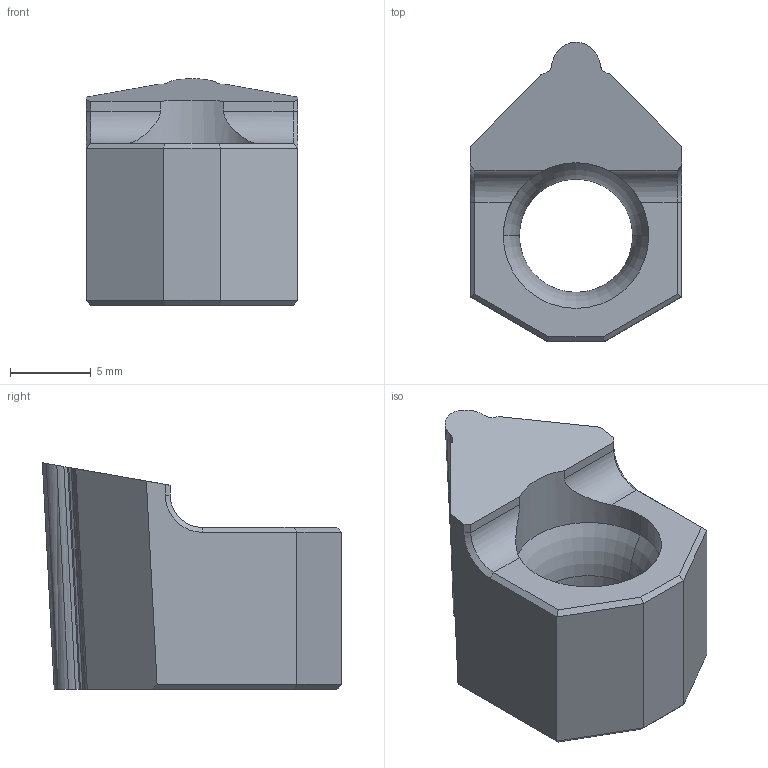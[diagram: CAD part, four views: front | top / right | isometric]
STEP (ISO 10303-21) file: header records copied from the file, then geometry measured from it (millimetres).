
FILE_DESCRIPTION (( 'STEP AP214' ), '1' );
FILE_NAME ('IN-PG5-33_60.STEP', '2023-07-22T10:02:08', ( 'Paolo' ), ( '' ), 'SwSTEP 2.0', 'SolidWorks 2020', '' );
FILE_SCHEMA (( 'AUTOMOTIVE_DESIGN' ));
Length unit declared in the file: millimetre
Products named in the file (1): IN-PG5-33_60
Bounding box: 13.1 x 18.5 x 14 mm (x, y, z)
Volume: 1571 mm3; surface area: 1107.1 mm2
Topology: 1 solids, 1 shells, 52 faces, 135 edges, 84 vertices
Faces by surface type: plane 24, bspline 16, cylinder 6, cone 4, torus 2
Entity records: 1702 total; most frequent: CARTESIAN_POINT 519, ORIENTED_EDGE 270, DIRECTION 191, EDGE_CURVE 135, VERTEX_POINT 84, LINE 83, VECTOR 83, AXIS2_PLACEMENT_3D 54
